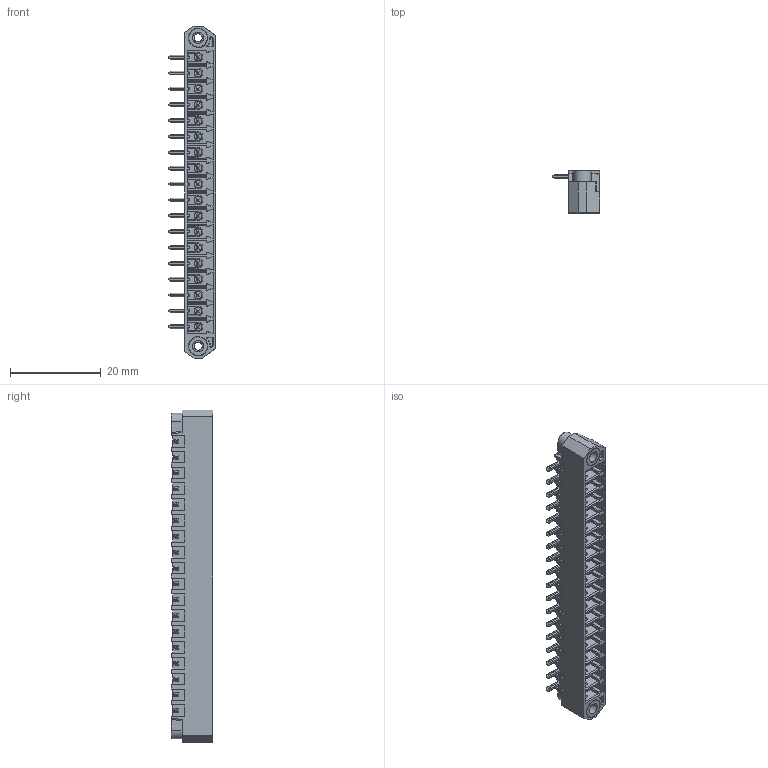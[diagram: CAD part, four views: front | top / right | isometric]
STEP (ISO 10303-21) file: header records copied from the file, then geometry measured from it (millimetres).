
FILE_DESCRIPTION (( 'STEP AP214' ), '1' );
FILE_NAME ('110-M-215-18.STEP', '2007-12-04T06:16:45', ( ' ' ), ( '' ), 'SwSTEP 2.0', 'SolidWorks 2007', '' );
FILE_SCHEMA (( 'AUTOMOTIVE_DESIGN' ));
Products named in the file (1): 110-M-215-18
Bounding box: 10.5 x 9.2 x 73.3 mm (x, y, z)
Volume: 2022.3 mm3; surface area: 6459.3 mm2
Topology: 1 solids, 1 shells, 3677 faces, 10674 edges, 6831 vertices
Faces by surface type: plane 2350, cylinder 1015, bspline 164, cone 148
Entity records: 130518 total; most frequent: CARTESIAN_POINT 43002, ORIENTED_EDGE 21204, DIRECTION 13664, EDGE_CURVE 10602, VERTEX_POINT 6831, LINE 5992, VECTOR 5992, B_SPLINE_CURVE_WITH_KNOTS 4172
